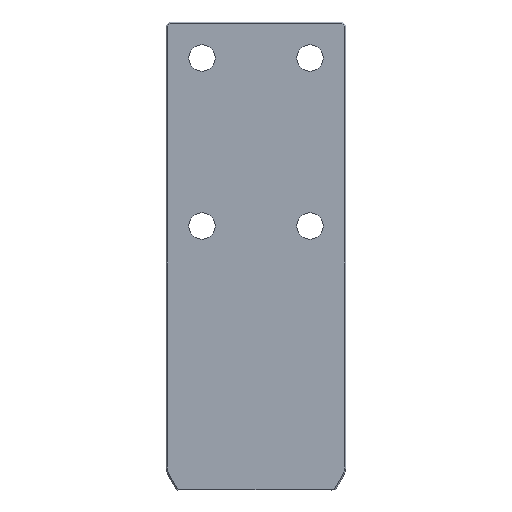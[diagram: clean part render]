
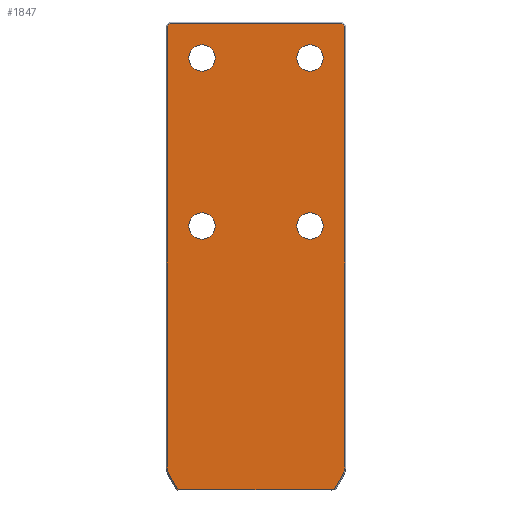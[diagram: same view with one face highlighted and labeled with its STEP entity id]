
A CAD part, front view. The second image highlights one B-rep face of the part: STEP entity #1847.
In plain terms, the highlighted planar face has unit normal (0, -1, 0).
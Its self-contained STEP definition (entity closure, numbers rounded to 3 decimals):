
#126=VERTEX_POINT(' ',#127);
#127=CARTESIAN_POINT('',(45.,-50.,-181.));
#128=VERTEX_POINT(' ',#129);
#129=CARTESIAN_POINT('',(45.,-50.,-159.));
#134=VERTEX_POINT(' ',#135);
#135=CARTESIAN_POINT('',(-45.,-50.,-41.));
#136=VERTEX_POINT(' ',#137);
#137=CARTESIAN_POINT('',(-45.,-50.,-19.));
#142=VERTEX_POINT(' ',#143);
#143=CARTESIAN_POINT('',(45.,-50.,-41.));
#144=VERTEX_POINT(' ',#145);
#145=CARTESIAN_POINT('',(45.,-50.,-19.));
#150=VERTEX_POINT(' ',#151);
#151=CARTESIAN_POINT('',(-45.,-50.,-181.));
#152=VERTEX_POINT(' ',#153);
#153=CARTESIAN_POINT('',(-45.,-50.,-159.));
#236=VERTEX_POINT(' ',#237);
#237=CARTESIAN_POINT('',(65.185,-50.,-390.));
#238=VERTEX_POINT(' ',#239);
#239=CARTESIAN_POINT('',(71.454,-50.,-379.141));
#240=VERTEX_POINT(' ',#241);
#241=CARTESIAN_POINT('',(74.,-50.,-369.641));
#242=VERTEX_POINT(' ',#243);
#243=CARTESIAN_POINT('',(74.,-50.,-200.));
#244=VERTEX_POINT(' ',#245);
#245=CARTESIAN_POINT('',(74.,-50.,-3.414));
#248=VERTEX_POINT(' ',#249);
#249=CARTESIAN_POINT('',(71.586,-50.,-1.));
#252=VERTEX_POINT(' ',#253);
#253=CARTESIAN_POINT('',(-71.586,-50.,-1.));
#256=VERTEX_POINT(' ',#257);
#257=CARTESIAN_POINT('',(-74.,-50.,-3.414));
#266=VERTEX_POINT(' ',#267);
#267=CARTESIAN_POINT('',(-65.185,-50.,-390.));
#268=VERTEX_POINT(' ',#269);
#269=CARTESIAN_POINT('',(-74.,-50.,-200.));
#270=VERTEX_POINT(' ',#271);
#271=CARTESIAN_POINT('',(-74.,-50.,-369.641));
#272=VERTEX_POINT(' ',#273);
#273=CARTESIAN_POINT('',(-71.454,-50.,-379.141));
#274=CIRCLE('',#275,11.);
#275=AXIS2_PLACEMENT_3D('',#276,#277,#278);
#276=CARTESIAN_POINT('',(45.,-50.,-170.));
#277=DIRECTION('',(0.,-1.,0.));
#278=DIRECTION('',(-1.,0.,0.));
#279=EDGE_CURVE(' ',#126,#128,#274,.T.);
#296=CIRCLE('',#297,11.);
#297=AXIS2_PLACEMENT_3D('',#298,#299,#300);
#298=CARTESIAN_POINT('',(45.,-50.,-170.));
#299=DIRECTION('',(0.,-1.,0.));
#300=DIRECTION('',(1.,0.,0.));
#301=EDGE_CURVE(' ',#128,#126,#296,.T.);
#308=CIRCLE('',#309,11.);
#309=AXIS2_PLACEMENT_3D('',#310,#311,#312);
#310=CARTESIAN_POINT('',(-45.,-50.,-30.));
#311=DIRECTION('',(0.,-1.,0.));
#312=DIRECTION('',(-1.,0.,0.));
#313=EDGE_CURVE(' ',#134,#136,#308,.T.);
#330=CIRCLE('',#331,11.);
#331=AXIS2_PLACEMENT_3D('',#332,#333,#334);
#332=CARTESIAN_POINT('',(-45.,-50.,-30.));
#333=DIRECTION('',(0.,-1.,0.));
#334=DIRECTION('',(1.,0.,0.));
#335=EDGE_CURVE(' ',#136,#134,#330,.T.);
#342=CIRCLE('',#343,11.);
#343=AXIS2_PLACEMENT_3D('',#344,#345,#346);
#344=CARTESIAN_POINT('',(45.,-50.,-30.));
#345=DIRECTION('',(0.,1.,0.));
#346=DIRECTION('',(-1.,0.,0.));
#347=EDGE_CURVE(' ',#142,#144,#342,.F.);
#364=CIRCLE('',#365,11.);
#365=AXIS2_PLACEMENT_3D('',#366,#367,#368);
#366=CARTESIAN_POINT('',(45.,-50.,-30.));
#367=DIRECTION('',(0.,1.,0.));
#368=DIRECTION('',(1.,0.,0.));
#369=EDGE_CURVE(' ',#144,#142,#364,.F.);
#376=CIRCLE('',#377,11.);
#377=AXIS2_PLACEMENT_3D('',#378,#379,#380);
#378=CARTESIAN_POINT('',(-45.,-50.,-170.));
#379=DIRECTION('',(0.,1.,0.));
#380=DIRECTION('',(-1.,0.,0.));
#381=EDGE_CURVE(' ',#150,#152,#376,.F.);
#398=CIRCLE('',#399,11.);
#399=AXIS2_PLACEMENT_3D('',#400,#401,#402);
#400=CARTESIAN_POINT('',(-45.,-50.,-170.));
#401=DIRECTION('',(0.,1.,0.));
#402=DIRECTION('',(1.,0.,0.));
#403=EDGE_CURVE(' ',#152,#150,#398,.F.);
#795=LINE('',#796,#797);
#796=CARTESIAN_POINT('',(71.454,-50.,-379.141));
#797=VECTOR('',#798,1.);
#798=DIRECTION('',(-0.5,0.,-0.866));
#799=EDGE_CURVE(' ',#238,#236,#795,.T.);
#805=CIRCLE('',#806,19.);
#806=AXIS2_PLACEMENT_3D('',#807,#808,#809);
#807=CARTESIAN_POINT('',(55.,-50.,-369.641));
#808=DIRECTION('',(0.,1.,0.));
#809=DIRECTION('',(-0.966,0.,0.259));
#810=EDGE_CURVE(' ',#240,#238,#805,.T.);
#816=LINE('',#817,#818);
#817=CARTESIAN_POINT('',(74.,-50.,-200.));
#818=VECTOR('',#819,1.);
#819=DIRECTION('',(0.,0.,-1.));
#820=EDGE_CURVE(' ',#242,#240,#816,.T.);
#826=LINE('',#827,#828);
#827=CARTESIAN_POINT('',(74.,-50.,2.657));
#828=VECTOR('',#829,1.);
#829=DIRECTION('',(0.,0.,-1.));
#830=EDGE_CURVE(' ',#244,#242,#826,.T.);
#846=LINE('',#847,#848);
#847=CARTESIAN_POINT('',(67.293,-50.,3.293));
#848=VECTOR('',#849,1.);
#849=DIRECTION('',(0.707,0.,-0.707));
#850=EDGE_CURVE(' ',#248,#244,#846,.T.);
#866=LINE('',#867,#868);
#867=CARTESIAN_POINT('',(-77.657,-50.,-1.));
#868=VECTOR('',#869,1.);
#869=DIRECTION('',(1.,0.,0.));
#870=EDGE_CURVE(' ',#252,#248,#866,.T.);
#886=LINE('',#887,#888);
#887=CARTESIAN_POINT('',(-78.293,-50.,-7.707));
#888=VECTOR('',#889,1.);
#889=DIRECTION('',(0.707,0.,0.707));
#890=EDGE_CURVE(' ',#256,#252,#886,.T.);
#937=LINE('',#938,#939);
#938=CARTESIAN_POINT('',(-75.12,-50.,-390.));
#939=VECTOR('',#940,1.);
#940=DIRECTION('',(1.,0.,0.));
#941=EDGE_CURVE(' ',#236,#266,#937,.F.);
#942=LINE('',#943,#944);
#943=CARTESIAN_POINT('',(-74.,-50.,-200.));
#944=VECTOR('',#945,1.);
#945=DIRECTION('',(0.,0.,1.));
#946=EDGE_CURVE(' ',#268,#256,#942,.T.);
#947=LINE('',#948,#949);
#948=CARTESIAN_POINT('',(-74.,-50.,-369.641));
#949=VECTOR('',#950,1.);
#950=DIRECTION('',(0.,0.,1.));
#951=EDGE_CURVE(' ',#270,#268,#947,.T.);
#952=CIRCLE('',#953,19.);
#953=AXIS2_PLACEMENT_3D('',#954,#955,#956);
#954=CARTESIAN_POINT('',(-55.,-50.,-369.641));
#955=DIRECTION('',(0.,1.,0.));
#956=DIRECTION('',(0.966,0.,0.259));
#957=EDGE_CURVE(' ',#272,#270,#952,.T.);
#958=LINE('',#959,#960);
#959=CARTESIAN_POINT('',(-62.645,-50.,-394.399));
#960=VECTOR('',#961,1.);
#961=DIRECTION('',(-0.5,0.,0.866));
#962=EDGE_CURVE(' ',#266,#272,#958,.T.);
#1812=ORIENTED_EDGE('',*,*,#946,.F.);
#1813=ORIENTED_EDGE('',*,*,#951,.F.);
#1814=ORIENTED_EDGE('',*,*,#957,.F.);
#1815=ORIENTED_EDGE('',*,*,#962,.F.);
#1816=ORIENTED_EDGE('',*,*,#941,.F.);
#1817=ORIENTED_EDGE('',*,*,#799,.F.);
#1818=ORIENTED_EDGE('',*,*,#810,.F.);
#1819=ORIENTED_EDGE('',*,*,#820,.F.);
#1820=ORIENTED_EDGE('',*,*,#830,.F.);
#1821=ORIENTED_EDGE('',*,*,#850,.F.);
#1822=ORIENTED_EDGE('',*,*,#870,.F.);
#1823=ORIENTED_EDGE('',*,*,#890,.F.);
#1824=EDGE_LOOP('',(#1812,#1813,#1814,#1815,#1816,#1817,#1818,#1819,#1820,#1821,#1822,#1823));
#1825=FACE_OUTER_BOUND('',#1824,.T.);
#1826=ORIENTED_EDGE('',*,*,#403,.F.);
#1827=ORIENTED_EDGE('',*,*,#381,.F.);
#1828=EDGE_LOOP('',(#1826,#1827));
#1829=FACE_BOUND('',#1828,.T.);
#1830=ORIENTED_EDGE('',*,*,#369,.F.);
#1831=ORIENTED_EDGE('',*,*,#347,.F.);
#1832=EDGE_LOOP('',(#1830,#1831));
#1833=FACE_BOUND('',#1832,.T.);
#1834=ORIENTED_EDGE('',*,*,#335,.F.);
#1835=ORIENTED_EDGE('',*,*,#313,.F.);
#1836=EDGE_LOOP('',(#1834,#1835));
#1837=FACE_BOUND('',#1836,.T.);
#1838=ORIENTED_EDGE('',*,*,#301,.F.);
#1839=ORIENTED_EDGE('',*,*,#279,.F.);
#1840=EDGE_LOOP('',(#1838,#1839));
#1841=FACE_BOUND('',#1840,.T.);
#1842=PLANE('',#1843);
#1843=AXIS2_PLACEMENT_3D('',#1844,#1845,#1846);
#1844=CARTESIAN_POINT('',(0.,-50.,0.));
#1845=DIRECTION('',(0.,-1.,0.));
#1846=DIRECTION('',(0.,0.,-1.));
#1847=ADVANCED_FACE('',(#1825,#1829,#1833,#1837,#1841),#1842,.T.);
